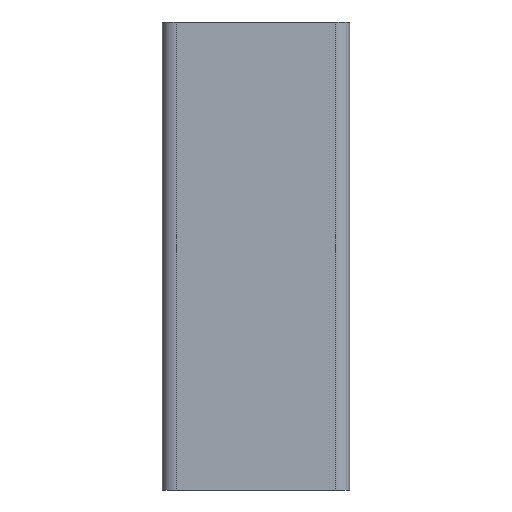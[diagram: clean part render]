
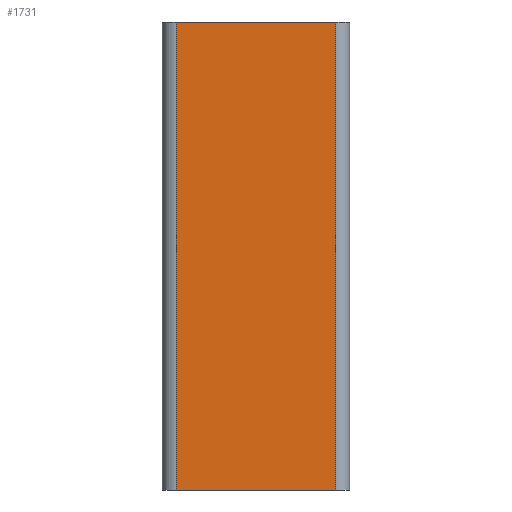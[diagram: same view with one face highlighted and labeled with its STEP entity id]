
A CAD part, front view. The second image highlights one B-rep face of the part: STEP entity #1731.
In plain terms, the highlighted planar face has unit normal (0, -1, 0).
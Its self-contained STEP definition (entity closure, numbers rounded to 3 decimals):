
#159 = DIRECTION ( 'NONE',  ( 0., -1., 0. ) ) ;
#232 = VECTOR ( 'NONE', #796, 1000. ) ;
#336 = LINE ( 'NONE', #389, #232 ) ;
#344 = VECTOR ( 'NONE', #2702, 1000. ) ;
#389 = CARTESIAN_POINT ( 'NONE',  ( 20., -20., -100. ) ) ;
#465 = CARTESIAN_POINT ( 'NONE',  ( -17., -20., -100. ) ) ;
#528 = VERTEX_POINT ( 'NONE', #1986 ) ;
#538 = EDGE_CURVE ( 'NONE', #528, #3138, #1800, .T. ) ;
#796 = DIRECTION ( 'NONE',  ( 1., 0., 0. ) ) ;
#991 = ORIENTED_EDGE ( 'NONE', *, *, #538, .F. ) ;
#1168 = ORIENTED_EDGE ( 'NONE', *, *, #4374, .T. ) ;
#1406 = AXIS2_PLACEMENT_3D ( 'NONE', #4422, #159, #2975 ) ;
#1594 = VECTOR ( 'NONE', #4312, 1000. ) ;
#1731 = ADVANCED_FACE ( 'NONE', ( #4784 ), #2604, .T. ) ;
#1800 = LINE ( 'NONE', #3174, #1594 ) ;
#1828 = EDGE_LOOP ( 'NONE', ( #3721, #991, #1168, #1931 ) ) ;
#1931 = ORIENTED_EDGE ( 'NONE', *, *, #3946, .T. ) ;
#1986 = CARTESIAN_POINT ( 'NONE',  ( -17., -20., 0. ) ) ;
#2217 = DIRECTION ( 'NONE',  ( 0., 0., -1. ) ) ;
#2355 = CARTESIAN_POINT ( 'NONE',  ( 17., -20., 0. ) ) ;
#2446 = EDGE_CURVE ( 'NONE', #2646, #3138, #4366, .T. ) ;
#2604 = PLANE ( 'NONE',  #1406 ) ;
#2605 = CARTESIAN_POINT ( 'NONE',  ( 17., -20., -100. ) ) ;
#2646 = VERTEX_POINT ( 'NONE', #2605 ) ;
#2702 = DIRECTION ( 'NONE',  ( 0., 0., 1. ) ) ;
#2975 = DIRECTION ( 'NONE',  ( 1., 0., 0. ) ) ;
#3138 = VERTEX_POINT ( 'NONE', #2355 ) ;
#3174 = CARTESIAN_POINT ( 'NONE',  ( 20., -20., 0. ) ) ;
#3397 = VECTOR ( 'NONE', #2217, 1000. ) ;
#3434 = CARTESIAN_POINT ( 'NONE',  ( 17., -20., -100. ) ) ;
#3721 = ORIENTED_EDGE ( 'NONE', *, *, #2446, .T. ) ;
#3946 = EDGE_CURVE ( 'NONE', #4168, #2646, #336, .T. ) ;
#4168 = VERTEX_POINT ( 'NONE', #465 ) ;
#4229 = LINE ( 'NONE', #4431, #3397 ) ;
#4312 = DIRECTION ( 'NONE',  ( 1., 0., 0. ) ) ;
#4366 = LINE ( 'NONE', #3434, #344 ) ;
#4374 = EDGE_CURVE ( 'NONE', #528, #4168, #4229, .T. ) ;
#4422 = CARTESIAN_POINT ( 'NONE',  ( 20., -20., -100. ) ) ;
#4431 = CARTESIAN_POINT ( 'NONE',  ( -17., -20., -100. ) ) ;
#4784 = FACE_OUTER_BOUND ( 'NONE', #1828, .T. ) ;
